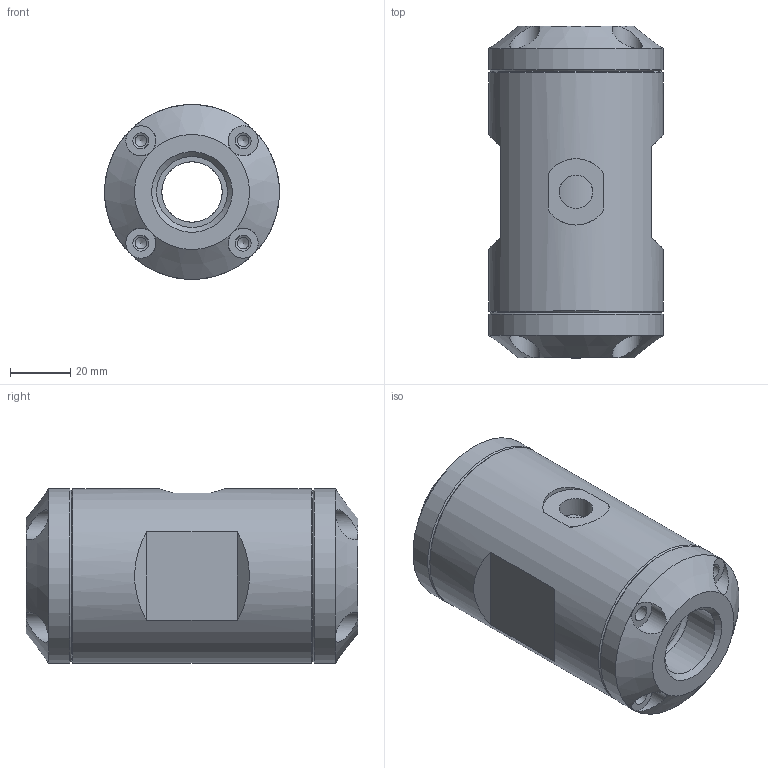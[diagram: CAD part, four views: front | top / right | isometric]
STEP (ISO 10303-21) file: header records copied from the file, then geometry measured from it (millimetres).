
FILE_DESCRIPTION(/* description */ (''),/* implementation_level */ '2;1');
FILE_NAME(/* name */ 'QV20_assembly_VEREINFACHT.stp',/* time_stamp */ '2013-09-23T20:02:20+02:00',/* author */ (''),/* organization */ (''),/* preprocessor_version */ 'ST-DEVELOPER v11',/* originating_system */ 'SIEMENS PLM Software NX 7.5',/* authorisation */ '');
FILE_SCHEMA (('AUTOMOTIVE_DESIGN { 1 0 10303 214 1 1 1 1 }'));
Length unit declared in the file: millimetre
Products named in the file (1): memd82A4l9nv
Bounding box: 58 x 110 x 58 mm (x, y, z)
Volume: 225874.4 mm3; surface area: 46443.8 mm2
Topology: 3 solids, 3 shells, 117 faces, 278 edges, 176 vertices
Faces by surface type: cylinder 44, cone 34, plane 27, torus 12
Full cylindrical faces by diameter (mm): 3.8 x8, 5.3 x16, 10 x8, 11.113 x1, 20 x3, 23.416 x2, 58 x3
Entity records: 2837 total; most frequent: CARTESIAN_POINT 587, DIRECTION 500, ORIENTED_EDGE 312, AXIS2_PLACEMENT_3D 245, EDGE_LOOP 220, FACE_BOUND 203, EDGE_CURVE 156, VERTEX_POINT 134
